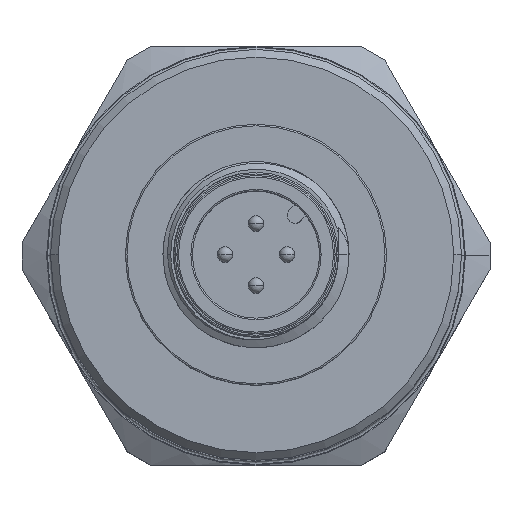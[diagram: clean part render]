
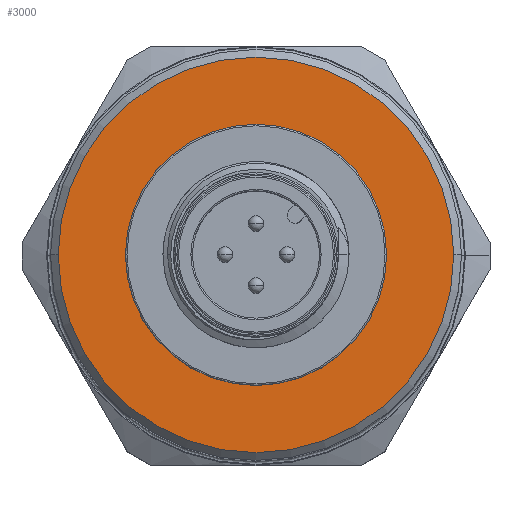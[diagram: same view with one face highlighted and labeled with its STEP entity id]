
A CAD part, top view. The second image highlights one B-rep face of the part: STEP entity #3000.
In plain terms, the highlighted planar face has unit normal (0, 0, 1).
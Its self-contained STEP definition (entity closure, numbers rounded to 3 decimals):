
#75 = AXIS2_PLACEMENT_3D ( 'NONE', #6507, #3792, #4902 ) ;
#860 = DIRECTION ( 'NONE',  ( 0., 0., 1. ) ) ;
#992 = EDGE_CURVE ( 'NONE', #3357, #6780, #2561, .T. ) ;
#1207 = AXIS2_PLACEMENT_3D ( 'NONE', #2269, #4452, #1725 ) ;
#1725 = DIRECTION ( 'NONE',  ( 1., 0., 0. ) ) ;
#2064 = AXIS2_PLACEMENT_3D ( 'NONE', #3626, #5832, #3099 ) ;
#2181 = CIRCLE ( 'NONE', #2064, 12.75 ) ;
#2269 = CARTESIAN_POINT ( 'NONE',  ( 0., 0., 45. ) ) ;
#2323 = ORIENTED_EDGE ( 'NONE', *, *, #6187, .F. ) ;
#2385 = ORIENTED_EDGE ( 'NONE', *, *, #992, .T. ) ;
#2555 = CARTESIAN_POINT ( 'NONE',  ( -8.42, 0., 45. ) ) ;
#2561 = CIRCLE ( 'NONE', #75, 12.75 ) ;
#2794 = ORIENTED_EDGE ( 'NONE', *, *, #5221, .T. ) ;
#3000 = ADVANCED_FACE ( 'NONE', ( #5223, #5297 ), #6897, .T. ) ;
#3091 = CARTESIAN_POINT ( 'NONE',  ( 0., 0., 45. ) ) ;
#3099 = DIRECTION ( 'NONE',  ( 1., 0., 0. ) ) ;
#3357 = VERTEX_POINT ( 'NONE', #6417 ) ;
#3626 = CARTESIAN_POINT ( 'NONE',  ( 0., 0., 45. ) ) ;
#3658 = AXIS2_PLACEMENT_3D ( 'NONE', #3091, #4777, #4635 ) ;
#3666 = DIRECTION ( 'NONE',  ( 1., 0., 0. ) ) ;
#3792 = DIRECTION ( 'NONE',  ( 0., 0., 1. ) ) ;
#4452 = DIRECTION ( 'NONE',  ( 0., 0., 1. ) ) ;
#4632 = CIRCLE ( 'NONE', #1207, 8.42 ) ;
#4635 = DIRECTION ( 'NONE',  ( 1., 0., 0. ) ) ;
#4777 = DIRECTION ( 'NONE',  ( 0., 0., 1. ) ) ;
#4801 = AXIS2_PLACEMENT_3D ( 'NONE', #6260, #860, #3666 ) ;
#4902 = DIRECTION ( 'NONE',  ( 1., 0., 0. ) ) ;
#5151 = VERTEX_POINT ( 'NONE', #2555 ) ;
#5221 = EDGE_CURVE ( 'NONE', #6780, #3357, #2181, .T. ) ;
#5223 = FACE_BOUND ( 'NONE', #5936, .T. ) ;
#5229 = VERTEX_POINT ( 'NONE', #5509 ) ;
#5297 = FACE_OUTER_BOUND ( 'NONE', #5435, .T. ) ;
#5435 = EDGE_LOOP ( 'NONE', ( #2794, #2385 ) ) ;
#5455 = EDGE_CURVE ( 'NONE', #5229, #5151, #6858, .T. ) ;
#5509 = CARTESIAN_POINT ( 'NONE',  ( 8.42, 0., 45. ) ) ;
#5832 = DIRECTION ( 'NONE',  ( 0., 0., 1. ) ) ;
#5936 = EDGE_LOOP ( 'NONE', ( #2323, #6465 ) ) ;
#6187 = EDGE_CURVE ( 'NONE', #5151, #5229, #4632, .T. ) ;
#6260 = CARTESIAN_POINT ( 'NONE',  ( 0., 0., 45. ) ) ;
#6414 = CARTESIAN_POINT ( 'NONE',  ( -12.75, 0., 45. ) ) ;
#6417 = CARTESIAN_POINT ( 'NONE',  ( 12.75, 0., 45. ) ) ;
#6465 = ORIENTED_EDGE ( 'NONE', *, *, #5455, .F. ) ;
#6507 = CARTESIAN_POINT ( 'NONE',  ( 0., 0., 45. ) ) ;
#6780 = VERTEX_POINT ( 'NONE', #6414 ) ;
#6858 = CIRCLE ( 'NONE', #3658, 8.42 ) ;
#6897 = PLANE ( 'NONE',  #4801 ) ;
